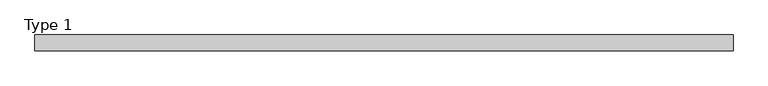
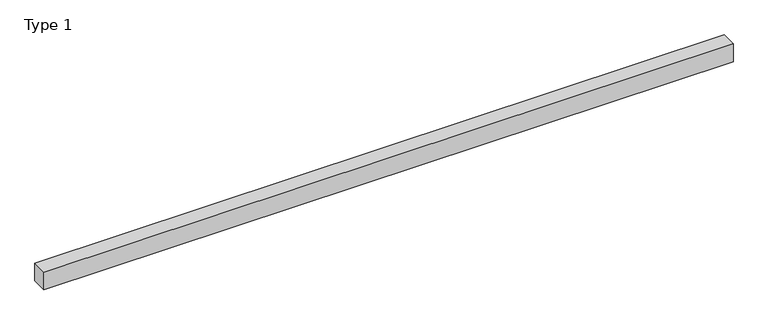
"""IFC4 building model written with IfcOpenShell, lengths in millimetres: proxy geometry, Window Header_Lentil : Type 1."""

from ifc_helpers import new_model, si_unit, frame, origin, place, context, project, spatial, polyline, outline, extrude, source, transform, mapped, element, save


def type_1_53af3487(model_context):
    return source(origin(), model_context, "Body", "SweptSolid", [
        extrude(outline(polyline([(-808.45, 394.5), (1058.45, 394.5), (1058.45, 352.4), (-808.45, 352.4), (-808.45, 394.5)])), frame((0.0, 0.0, 2250.0), z_axis=(0.0, 0.0, 1.0), x_axis=(1.0, 0.0, 0.0)), (0.0, 0.0, 1.0), 50.8),
    ])


if __name__ == "__main__":
    model = new_model("IFC4")
    model_context = context("Model", 3, world=origin())
    ifc_project = project(units=[si_unit("LENGTHUNIT", "METRE", prefix="MILLI")], contexts=[model_context])
    site = spatial("IfcSite", under=ifc_project)
    building = spatial("IfcBuilding", under=site)
    placement = place(None, origin())
    type_1_shape = type_1_53af3487(model_context)
    element("IfcBuildingElementProxy", 1, Name="Window Header_Lentil : Type 1", ObjectType="Window Header_Lentil : Type 1", at=placement, inside=building, context=model_context, shape_type="MappedRepresentation", body=[
        mapped(type_1_shape, transform((0.0, 0.0, 0.0), x_axis=(1.0, 0.0, 0.0), y_axis=(0.0, 1.0, 0.0), z_axis=(0.0, 0.0, 1.0))),
    ])
    save(model, "model.ifc")
